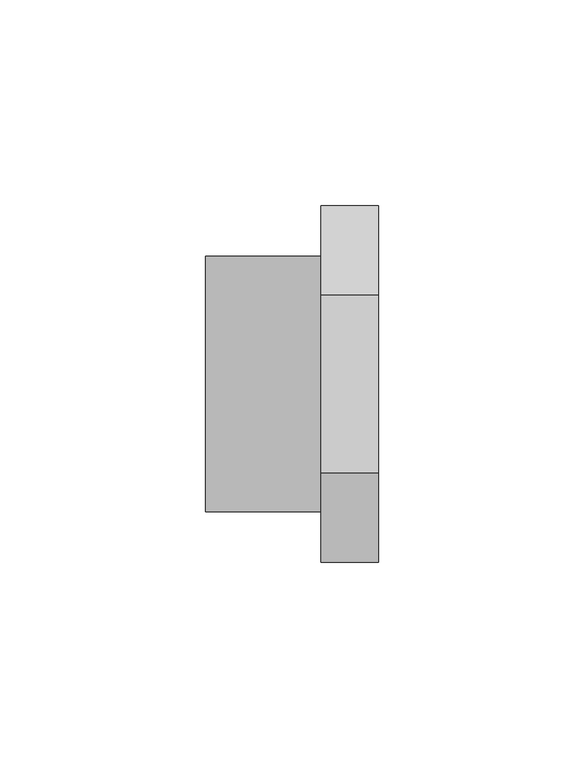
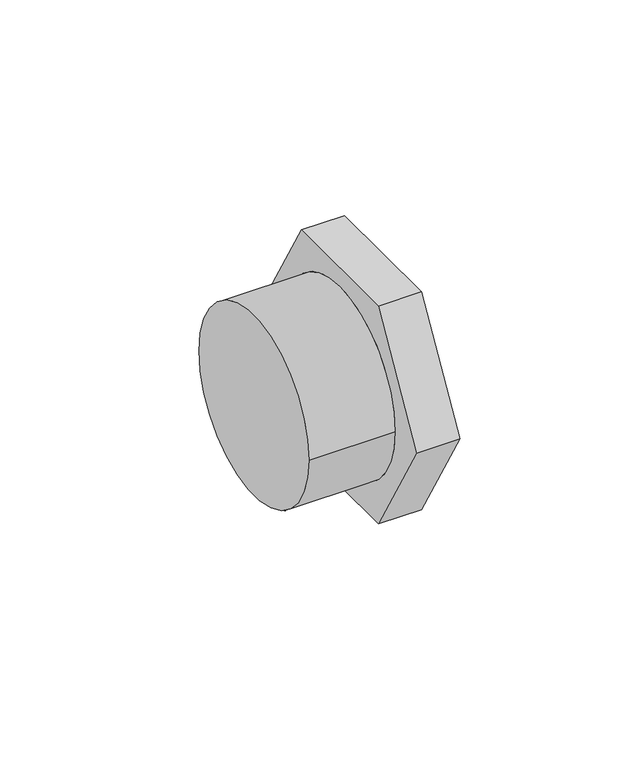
"""IFC4 building model written with IfcOpenShell, lengths in millimetres: pipe fitting geometry, 01011011 : Tapones M."""

from ifc_helpers import new_model, si_unit, point, frame, origin, origin_2d, place, context, project, spatial, circle_curve, trimmed, segment, composite_curve, outline, extrude, source, transform, mapped, element, save
from ifc_brep_helpers import plane_surface, cylinder_surface, advanced_brep


def pipe_fitting_21515a6b(model_context):
    return source(origin(), model_context, "Body", "SolidModel", [
        extrude(outline(composite_curve([segment(trimmed(circle_curve(origin_2d(), 31.025), [point((-31.025, 0.0))], [point((31.025, 0.0))], False, "CARTESIAN"), True, "CONTINUOUS"), segment(trimmed(circle_curve(origin_2d(), 31.025), [point((31.025, 0.0))], [point((-31.025, 0.0))], False, "CARTESIAN"), True, "CONTINUOUS")], self_intersect=False)), frame((0.0, 0.0, 0.0), z_axis=(1.0, 0.0, 0.0), x_axis=(0.0, 1.0, 0.0)), (0.0, 0.0, 1.0), 28.0),
        advanced_brep(
        [(42.0, -21.6506351, 37.5), (42.0, -43.3012702, 0.0), (42.0, -21.6506351, -37.5), (42.0, 21.6506351, -37.5), (42.0, 43.3012702, 0.0), (42.0, 21.6506351, 37.5), (28.0, -21.6506351, 37.5), (28.0, 21.6506351, 37.5), (28.0, 43.3012702, 0.0), (28.0, 21.6506351, -37.5), (28.0, -21.6506351, -37.5), (28.0, -43.3012702, 0.0), (28.0, 31.025, 0.0), (28.0, -31.025, 0.0), (0.0, -31.025, 0.0), (0.0, 31.025, 0.0)],
        [
            (0, 1),
            (1, 2),
            (2, 3),
            (3, 4),
            (4, 5),
            (5, 0),
            (6, 7),
            (7, 8),
            (8, 9),
            (9, 10),
            (10, 11),
            (11, 6),
            (12, 13, circle_curve(frame((28.0, 0.0, 0.0), z_axis=(1.0, 0.0, 0.0), x_axis=(0.0, 1.0, 0.0)), 31.025)),
            (13, 12, circle_curve(frame((28.0, 0.0, 0.0), z_axis=(1.0, 0.0, 0.0), x_axis=(0.0, 1.0, 0.0)), 31.025)),
            (0, 6),
            (11, 1),
            (10, 2),
            (9, 3),
            (8, 4),
            (7, 5),
            (14, 15, circle_curve(frame((0.0, 0.0, 0.0), z_axis=(-1.0, 0.0, 0.0), x_axis=(0.0, 1.0, 0.0)), 31.025)),
            (15, 14, circle_curve(frame((0.0, 0.0, 0.0), z_axis=(-1.0, 0.0, 0.0), x_axis=(0.0, 1.0, 0.0)), 31.025)),
            (14, 13),
            (12, 15),
        ],
        [
            plane_surface(frame((42.0, -21.6506351, 37.5), z_axis=(1.0, 0.0, 0.0), x_axis=(0.0, -0.5000000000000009, -0.8660254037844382))),
            plane_surface(frame((28.0, -21.6506351, 37.5), z_axis=(-1.0, 0.0, 0.0), x_axis=(0.0, 0.5000000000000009, 0.8660254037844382))),
            plane_surface(frame((42.0, -21.6506351, 37.5), z_axis=(0.0, -0.8660254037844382, 0.5000000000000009), x_axis=(-1.0, 0.0, 0.0))),
            plane_surface(frame((42.0, -43.3012702, 0.0), z_axis=(0.0, -0.866025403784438, -0.500000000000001), x_axis=(-1.0, 0.0, 0.0))),
            plane_surface(frame((42.0, -21.6506351, -37.5), z_axis=(0.0, 0.0, -1.0), x_axis=(-1.0, 0.0, 0.0))),
            plane_surface(frame((42.0, 21.6506351, -37.5), z_axis=(0.0, 0.8660254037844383, -0.5000000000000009), x_axis=(-1.0, 0.0, 0.0))),
            plane_surface(frame((42.0, 43.3012702, 0.0), z_axis=(0.0, 0.866025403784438, 0.500000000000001), x_axis=(-1.0, 0.0, 0.0))),
            plane_surface(frame((42.0, 21.6506351, 37.5), z_axis=(0.0, 0.0, 1.0), x_axis=(-1.0, 0.0, 0.0))),
            plane_surface(frame((0.0, 0.0, 0.0), z_axis=(-1.0, 0.0, 0.0), x_axis=(0.0, 0.0, 1.0))),
            cylinder_surface(frame((0.0, 0.0, 0.0), z_axis=(-1.0, 0.0, 0.0), x_axis=(0.0, 1.0, 0.0)), 31.025),
        ],
        [
            (0, [[1, 2, 3, 4, 5, 6]]),
            (1, [[7, 8, 9, 10, 11, 12], [13, 14]]),
            (2, [[-1, 15, -12, 16]]),
            (3, [[-2, -16, -11, 17]]),
            (4, [[-3, -17, -10, 18]]),
            (5, [[-4, -18, -9, 19]]),
            (6, [[-5, -19, -8, 20]]),
            (7, [[-6, -20, -7, -15]]),
            (8, [[21, 22]]),
            (9, [[-21, 23, -13, 24]]),
            (9, [[-22, -24, -14, -23]]),
        ],
    ),
    ])


if __name__ == "__main__":
    model = new_model("IFC4")
    model_context = context("Model", 3, world=origin())
    ifc_project = project(units=[si_unit("LENGTHUNIT", "METRE", prefix="MILLI")], contexts=[model_context])
    site = spatial("IfcSite", under=ifc_project)
    building = spatial("IfcBuilding", under=site)
    placement = place(None, origin())
    pipe_fitting_shape = pipe_fitting_21515a6b(model_context)
    element("IfcPipeFitting", 1, ObjectType="01011011 : Tapones M", at=placement, inside=building, context=model_context, shape_type="MappedRepresentation", body=[
        mapped(pipe_fitting_shape, transform((0.0, 0.0, 0.0), x_axis=(1.0, 0.0, 0.0), y_axis=(0.0, 1.0, 0.0), z_axis=(0.0, 0.0, 1.0))),
    ])
    save(model, "model.ifc")
